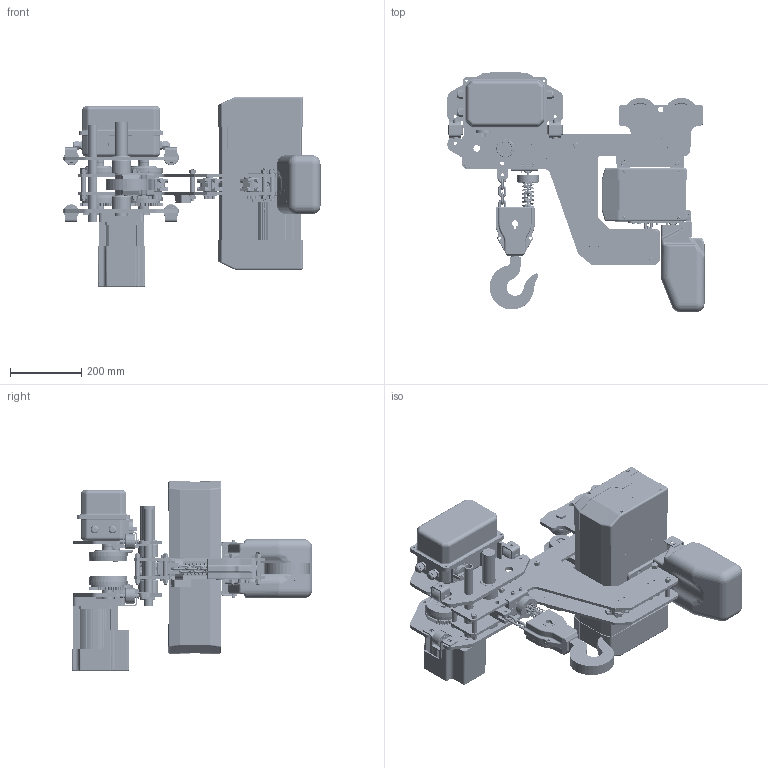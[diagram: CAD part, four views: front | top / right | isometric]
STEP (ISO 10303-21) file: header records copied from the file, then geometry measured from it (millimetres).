
FILE_DESCRIPTION(/* description */ ('CAx-IF Rec.Pracs.---Representation and Presentation of Product Manufacturing Information (PMI)---4.0---2014-10-13','CAx-IF Rec.Pracs.---3D Tessellated Geometry---0.4---2014-09-14','2;1'),/* implementation_level */ '2;1');
FILE_NAME(/* name */ 'YJ 02-02 超低吊',/* time_stamp */ '2026-06-03T16:19:01+08:00',/* author */ (''),/* organization */ (''),/* preprocessor_version */ 'ST-DEVELOPER v16.7',/* originating_system */ $,/* authorisation */ $);
FILE_SCHEMA (('AP242_MANAGED_MODEL_BASED_3D_ENGINEERING_MIM_LF { 1 0 10303 442 20130219 1 4 }'));
Products named in the file (1): YJ 02-02 超低吊
Bounding box: 723.53 x 677.42 x 534.98 mm (x, y, z)
Volume: 23026352.6 mm3; surface area: 3424475.2 mm2
Topology: 53 solids, 148 shells, 8853 faces, 21798 edges, 13533 vertices
Faces by surface type: plane 3007, cylinder 2680, bspline 1867, torus 706, cone 487, sphere 106
Full cylindrical faces by diameter (mm): 1.467 x1, 1.707 x1, 2 x4, 2.14 x1, 2.3 x1, 2.5 x8, 3 x1, 3.2 x4, 3.4 x2, 3.5 x5, 4 x4, 4.2 x4, 4.5 x4, 4.826 x4, 5 x16, 5.326 x2, 5.7 x4, 5.795 x14, 5.8 x2, 6 x10, 6.2 x2, 6.3 x4, 6.4 x4, 6.5 x17, 6.6 x8, 6.7 x4, 6.8 x4, 7 x2, 7.46 x1, 8 x5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
Entity records: 318835 total; most frequent: CARTESIAN_POINT 109702, ORIENTED_EDGE 41288, DIRECTION 35856, EDGE_CURVE 20644, AXIS2_PLACEMENT_3D 13457, VERTEX_POINT 13262, FACE_BOUND 10480, EDGE_LOOP 10458
